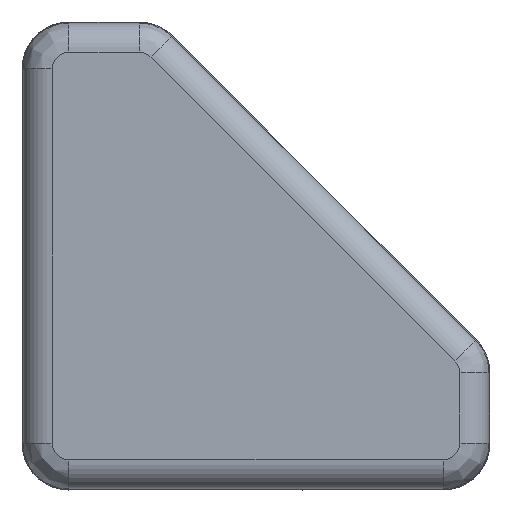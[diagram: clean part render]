
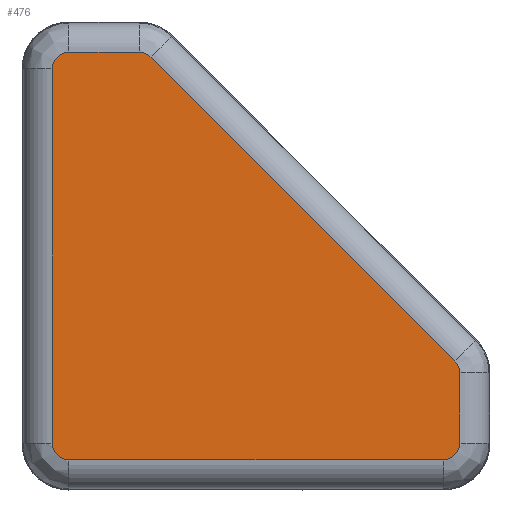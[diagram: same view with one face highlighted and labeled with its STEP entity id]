
A CAD part, left-side view. The second image highlights one B-rep face of the part: STEP entity #476.
In plain terms, the highlighted planar face has unit normal (-1, 0, 0).
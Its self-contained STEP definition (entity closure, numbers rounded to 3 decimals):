
#416=CIRCLE('',#1264,1.418);
#417=CIRCLE('',#1265,1.418);
#418=CIRCLE('',#1266,1.418);
#419=CIRCLE('',#1267,1.418);
#420=CIRCLE('',#1268,1.418);
#476=ADVANCED_FACE('',(#551),#505,.F.);
#505=PLANE('',#1269);
#551=FACE_OUTER_BOUND('',#607,.T.);
#607=EDGE_LOOP('',(#818,#819,#820,#821,#822,#823,#824,#825,#826,#827));
#818=ORIENTED_EDGE('',*,*,#1038,.T.);
#819=ORIENTED_EDGE('',*,*,#1039,.T.);
#820=ORIENTED_EDGE('',*,*,#1040,.T.);
#821=ORIENTED_EDGE('',*,*,#1041,.T.);
#822=ORIENTED_EDGE('',*,*,#1042,.T.);
#823=ORIENTED_EDGE('',*,*,#1043,.T.);
#824=ORIENTED_EDGE('',*,*,#1044,.T.);
#825=ORIENTED_EDGE('',*,*,#1045,.T.);
#826=ORIENTED_EDGE('',*,*,#1046,.T.);
#827=ORIENTED_EDGE('',*,*,#1047,.T.);
#926=VERTEX_POINT('',#1865);
#927=VERTEX_POINT('',#1866);
#928=VERTEX_POINT('',#1868);
#929=VERTEX_POINT('',#1870);
#930=VERTEX_POINT('',#1872);
#931=VERTEX_POINT('',#1874);
#932=VERTEX_POINT('',#1876);
#933=VERTEX_POINT('',#1878);
#934=VERTEX_POINT('',#1880);
#935=VERTEX_POINT('',#1882);
#1038=EDGE_CURVE('',#926,#927,#1119,.T.);
#1039=EDGE_CURVE('',#927,#928,#416,.T.);
#1040=EDGE_CURVE('',#928,#929,#1120,.T.);
#1041=EDGE_CURVE('',#929,#930,#417,.T.);
#1042=EDGE_CURVE('',#930,#931,#1121,.T.);
#1043=EDGE_CURVE('',#931,#932,#418,.T.);
#1044=EDGE_CURVE('',#932,#933,#1122,.T.);
#1045=EDGE_CURVE('',#933,#934,#419,.T.);
#1046=EDGE_CURVE('',#934,#935,#1123,.T.);
#1047=EDGE_CURVE('',#935,#926,#420,.T.);
#1119=LINE('',#1864,#1185);
#1120=LINE('',#1869,#1186);
#1121=LINE('',#1873,#1187);
#1122=LINE('',#1877,#1188);
#1123=LINE('',#1881,#1189);
#1185=VECTOR('',#1494,1.);
#1186=VECTOR('',#1497,1.);
#1187=VECTOR('',#1500,1.);
#1188=VECTOR('',#1503,1.);
#1189=VECTOR('',#1506,1.);
#1264=AXIS2_PLACEMENT_3D('',#1867,#1495,#1496);
#1265=AXIS2_PLACEMENT_3D('',#1871,#1498,#1499);
#1266=AXIS2_PLACEMENT_3D('',#1875,#1501,#1502);
#1267=AXIS2_PLACEMENT_3D('',#1879,#1504,#1505);
#1268=AXIS2_PLACEMENT_3D('',#1883,#1507,#1508);
#1269=AXIS2_PLACEMENT_3D('',#1884,#1509,#1510);
#1494=DIRECTION('',(0.,0.,-1.));
#1495=DIRECTION('',(-1.,0.,0.));
#1496=DIRECTION('',(0.,0.,1.));
#1497=DIRECTION('',(0.,-1.,0.));
#1498=DIRECTION('',(-1.,0.,0.));
#1499=DIRECTION('',(0.,0.,1.));
#1500=DIRECTION('',(0.,0.,1.));
#1501=DIRECTION('',(-1.,0.,0.));
#1502=DIRECTION('',(0.,0.,1.));
#1503=DIRECTION('',(0.,0.707,0.707));
#1504=DIRECTION('',(-1.,0.,0.));
#1505=DIRECTION('',(0.,0.,1.));
#1506=DIRECTION('',(0.,1.,0.));
#1507=DIRECTION('',(-1.,0.,0.));
#1508=DIRECTION('',(0.,0.,1.));
#1509=DIRECTION('',(1.,0.,0.));
#1510=DIRECTION('',(0.,0.,1.));
#1864=CARTESIAN_POINT('',(-4.,-2.582,-36.));
#1865=CARTESIAN_POINT('',(-4.,-2.582,-4.));
#1866=CARTESIAN_POINT('',(-4.,-2.582,-36.));
#1867=CARTESIAN_POINT('',(-4.,-4.,-36.));
#1868=CARTESIAN_POINT('',(-4.,-4.,-37.418));
#1869=CARTESIAN_POINT('',(-4.,-36.,-37.418));
#1870=CARTESIAN_POINT('',(-4.,-36.,-37.418));
#1871=CARTESIAN_POINT('',(-4.,-36.,-36.));
#1872=CARTESIAN_POINT('',(-4.,-37.418,-36.));
#1873=CARTESIAN_POINT('',(-4.,-37.418,-29.977));
#1874=CARTESIAN_POINT('',(-4.,-37.418,-29.977));
#1875=CARTESIAN_POINT('',(-4.,-36.,-29.977));
#1876=CARTESIAN_POINT('',(-4.,-37.003,-28.974));
#1877=CARTESIAN_POINT('',(-4.,-11.026,-2.997));
#1878=CARTESIAN_POINT('',(-4.,-11.026,-2.997));
#1879=CARTESIAN_POINT('',(-4.,-10.023,-4.));
#1880=CARTESIAN_POINT('',(-4.,-10.023,-2.582));
#1881=CARTESIAN_POINT('',(-4.,-4.,-2.582));
#1882=CARTESIAN_POINT('',(-4.,-4.,-2.582));
#1883=CARTESIAN_POINT('',(-4.,-4.,-4.));
#1884=CARTESIAN_POINT('',(-4.,-4.,-36.));
